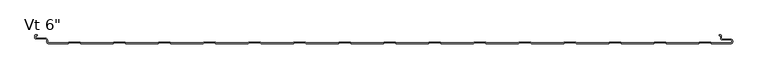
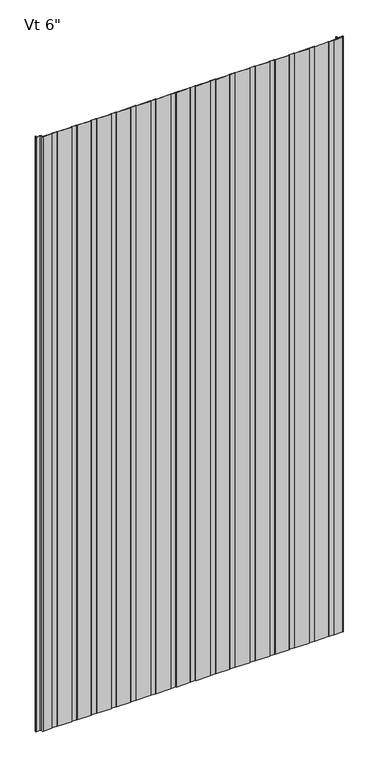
"""IFC4 building model written with IfcOpenShell, lengths in millimetres: plate geometry."""

from ifc_helpers import new_model, si_unit, frame, origin, place, context, project, spatial, polyline, circle_curve, source, transform, mapped, element, save
from ifc_brep_helpers import plane_surface, cylinder_surface, revolved_surface, advanced_brep


def plate_c57043c6(model_context):
    return source(origin(), model_context, "Body", "AdvancedBrep", [
        advanced_brep(
        [(390.6883592, -152.4, 2400.0), (445.2678137, -152.4, 2400.0), (446.3403385, -151.2088405, 2400.0), (465.2384546, -151.2088405, 2400.0), (466.3109794, -152.4, 2400.0), (520.890434, -152.4, 2400.0), (521.9629588, -151.2088405, 2400.0), (540.8610749, -151.2088405, 2400.0), (541.9335958, -152.3999956, 2400.0), (574.5475652, -152.3999956, 2400.0), (577.5248337, -149.4227271, 2400.0), (577.5248337, -148.3806285, 2400.0), (574.5475652, -145.40336, 2400.0), (560.3591801, -145.40336, 2400.0), (558.7713036, -143.8154834, 2400.0), (558.7713036, -139.4950653, 2400.0), (557.1304042, -137.9065979, 2400.0), (554.7857432, -137.9065979, 2400.0), (554.7857432, -138.9060718, 2400.0), (557.1628365, -138.9060718, 2400.0), (557.7713037, -139.4950653, 2400.0), (557.7713037, -143.8154834, 2400.0), (560.3591801, -146.40336, 2400.0), (574.5475652, -146.40336, 2400.0), (576.5248337, -148.3806285, 2400.0), (576.5248337, -149.4227271, 2400.0), (574.5475652, -151.3999956, 2400.0), (542.3760351, -151.3999956, 2400.0), (541.3035142, -150.2088405, 2400.0), (521.5205195, -150.2088405, 2400.0), (520.4479947, -151.4, 2400.0), (466.7534187, -151.4, 2400.0), (465.6808939, -150.2088405, 2400.0), (445.8978992, -150.2088405, 2400.0), (444.8253744, -151.4, 2400.0), (391.1307985, -151.4, 2400.0), (390.0582736, -150.2088405, 2400.0), (370.275279, -150.2088405, 2400.0), (369.2027541, -151.4, 2400.0), (315.5081782, -151.4, 2400.0), (314.4356534, -150.2088405, 2400.0), (294.6526587, -150.2088405, 2400.0), (293.5801339, -151.4, 2400.0), (239.885558, -151.4, 2400.0), (238.8130331, -150.2088405, 2400.0), (219.0300384, -150.2088405, 2400.0), (217.9575136, -151.4, 2400.0), (164.2629377, -151.4, 2400.0), (163.1904129, -150.2088405, 2400.0), (143.4074182, -150.2088405, 2400.0), (142.3348933, -151.4, 2400.0), (88.6403174, -151.4, 2400.0), (87.5677926, -150.2088405, 2400.0), (67.7847979, -150.2088405, 2400.0), (66.7122731, -151.4, 2400.0), (13.0176972, -151.4, 2400.0), (11.9451723, -150.2088405, 2400.0), (-7.8378224, -150.2088405, 2400.0), (-8.9103472, -151.4, 2400.0), (-62.6049231, -151.4, 2400.0), (-63.6774479, -150.2088405, 2400.0), (-83.4604426, -150.2088405, 2400.0), (-84.5329675, -151.4, 2400.0), (-138.2275434, -151.4, 2400.0), (-139.3000682, -150.2088405, 2400.0), (-159.0830629, -150.2088405, 2400.0), (-160.1555877, -151.4, 2400.0), (-213.8501636, -151.4, 2400.0), (-214.9226885, -150.2088405, 2400.0), (-234.7056831, -150.2088405, 2400.0), (-235.778208, -151.4, 2400.0), (-289.4727839, -151.4, 2400.0), (-290.5453087, -150.2088405, 2400.0), (-310.3283034, -150.2088405, 2400.0), (-311.4008282, -151.4, 2400.0), (-365.0954042, -151.4, 2400.0), (-366.167929, -150.2088405, 2400.0), (-385.9509237, -150.2088405, 2400.0), (-387.0234485, -151.4, 2400.0), (-440.7180244, -151.4, 2400.0), (-441.7905493, -150.2088405, 2400.0), (-461.5735439, -150.2088405, 2400.0), (-462.6460688, -151.4, 2400.0), (-516.3406447, -151.4, 2400.0), (-517.4131695, -150.2088405, 2400.0), (-537.1961642, -150.2088405, 2400.0), (-538.268689, -151.4, 2400.0), (-570.43528, -151.4, 2400.0), (-572.4125474, -149.4227096, 2400.0), (-572.4125474, -147.1308258, 2400.0), (-576.3898159, -143.1535573, 2400.0), (-591.9862419, -143.1535573, 2400.0), (-592.5741185, -142.5656807, 2400.0), (-592.5741185, -139.494132, 2400.0), (-591.9862419, -138.9062555, 2400.0), (-589.6312064, -138.9062555, 2400.0), (-589.6312064, -137.9062555, 2400.0), (-591.9862419, -137.9062555, 2400.0), (-593.5741185, -139.494132, 2400.0), (-593.5741185, -142.5656807, 2400.0), (-591.9862419, -144.1535573, 2400.0), (-576.3898159, -144.1535573, 2400.0), (-573.4125474, -147.1308258, 2400.0), (-573.4125474, -149.4227096, 2400.0), (-570.4352807, -152.3999782, 2400.0), (-537.8262497, -152.4, 2400.0), (-536.7537249, -151.2088405, 2400.0), (-517.8556088, -151.2088405, 2400.0), (-516.783084, -152.4, 2400.0), (-462.2036295, -152.4, 2400.0), (-461.1311046, -151.2088405, 2400.0), (-442.2329886, -151.2088405, 2400.0), (-441.1604637, -152.4, 2400.0), (-386.5810092, -152.4, 2400.0), (-385.5084844, -151.2088405, 2400.0), (-366.6103683, -151.2088405, 2400.0), (-365.5378435, -152.4, 2400.0), (-310.9583889, -152.4, 2400.0), (-309.8858641, -151.2088405, 2400.0), (-290.987748, -151.2088405, 2400.0), (-289.9152232, -152.4, 2400.0), (-235.3357687, -152.4, 2400.0), (-234.2632438, -151.2088405, 2400.0), (-215.3651278, -151.2088405, 2400.0), (-214.2926029, -152.4, 2400.0), (-159.7131484, -152.4, 2400.0), (-158.6406236, -151.2088405, 2400.0), (-139.7425075, -151.2088405, 2400.0), (-138.6699827, -152.4, 2400.0), (-84.0905281, -152.4, 2400.0), (-83.0180033, -151.2088405, 2400.0), (-64.1198873, -151.2088405, 2400.0), (-63.0473624, -152.4, 2400.0), (-8.4679079, -152.4, 2400.0), (-7.395383, -151.2088405, 2400.0), (11.502733, -151.2088405, 2400.0), (12.5752578, -152.4, 2400.0), (67.1547124, -152.4, 2400.0), (68.2272372, -151.2088405, 2400.0), (87.1253533, -151.2088405, 2400.0), (88.1978781, -152.4, 2400.0), (142.7773327, -152.4, 2400.0), (143.8498575, -151.2088405, 2400.0), (162.7479735, -151.2088405, 2400.0), (163.8204984, -152.4, 2400.0), (218.3999529, -152.4, 2400.0), (219.4724778, -151.2088405, 2400.0), (238.3705938, -151.2088405, 2400.0), (239.4431186, -152.4, 2400.0), (294.0225732, -152.4, 2400.0), (295.095098, -151.2088405, 2400.0), (313.9932141, -151.2088405, 2400.0), (315.0657389, -152.4, 2400.0), (369.6451934, -152.4, 2400.0), (370.7177183, -151.2088405, 2400.0), (389.6158343, -151.2088405, 2400.0), (390.6883592, -152.4, 0.0), (389.6158343, -151.2088405, 0.0), (370.7177183, -151.2088405, 0.0), (369.6451934, -152.4, 0.0), (315.0657389, -152.4, 0.0), (313.9932141, -151.2088405, 0.0), (295.095098, -151.2088405, 0.0), (294.0225732, -152.4, 0.0), (239.4431186, -152.4, 0.0), (238.3705938, -151.2088405, 0.0), (219.4724778, -151.2088405, 0.0), (218.3999529, -152.4, 0.0), (163.8204984, -152.4, 0.0), (162.7479735, -151.2088405, 0.0), (143.8498575, -151.2088405, 0.0), (142.7773327, -152.4, 0.0), (88.1978781, -152.4, 0.0), (87.1253533, -151.2088405, 0.0), (68.2272372, -151.2088405, 0.0), (67.1547124, -152.4, 0.0), (12.5752578, -152.4, 0.0), (11.502733, -151.2088405, 0.0), (-7.395383, -151.2088405, 0.0), (-8.4679079, -152.4, 0.0), (-63.0473624, -152.4, 0.0), (-64.1198873, -151.2088405, 0.0), (-83.0180033, -151.2088405, 0.0), (-84.0905281, -152.4, 0.0), (-138.6699827, -152.4, 0.0), (-139.7425075, -151.2088405, 0.0), (-158.6406236, -151.2088405, 0.0), (-159.7131484, -152.4, 0.0), (-214.2926029, -152.4, 0.0), (-215.3651278, -151.2088405, 0.0), (-234.2632438, -151.2088405, 0.0), (-235.3357687, -152.4, 0.0), (-289.9152232, -152.4, 0.0), (-290.987748, -151.2088405, 0.0), (-309.8858641, -151.2088405, 0.0), (-310.9583889, -152.4, 0.0), (-365.5378435, -152.4, 0.0), (-366.6103683, -151.2088405, 0.0), (-385.5084844, -151.2088405, 0.0), (-386.5810092, -152.4, 0.0), (-441.1604637, -152.4, 0.0), (-442.2329886, -151.2088405, 0.0), (-461.1311046, -151.2088405, 0.0), (-462.2036295, -152.4, 0.0), (-516.783084, -152.4, 0.0), (-517.8556088, -151.2088405, 0.0), (-536.7537249, -151.2088405, 0.0), (-537.8262497, -152.4, 0.0), (-570.4352807, -152.4, 0.0), (-573.4125474, -149.4227096, 0.0), (-573.4125474, -147.1308258, 0.0), (-576.3898159, -144.1535573, 0.0), (-591.9862419, -144.1535573, 0.0), (-593.5741185, -142.5656807, 0.0), (-593.5741185, -139.494132, 0.0), (-591.9862419, -137.9062555, 0.0), (-589.6312064, -137.9062555, 0.0), (-589.6312064, -138.9062555, 0.0), (-591.9862419, -138.9062555, 0.0), (-592.5741185, -139.494132, 0.0), (-592.5741185, -142.5656807, 0.0), (-591.9862419, -143.1535573, 0.0), (-576.3898159, -143.1535573, 0.0), (-572.4125474, -147.1308258, 0.0), (-572.4125474, -149.4227096, 0.0), (-570.43528, -151.3999782, 0.0), (-538.268689, -151.4, 0.0), (-537.1961642, -150.2088405, 0.0), (-517.4131695, -150.2088405, 0.0), (-516.3406447, -151.4, 0.0), (-462.6460688, -151.4, 0.0), (-461.5735439, -150.2088405, 0.0), (-441.7905493, -150.2088405, 0.0), (-440.7180244, -151.4, 0.0), (-387.0234485, -151.4, 0.0), (-385.9509237, -150.2088405, 0.0), (-366.167929, -150.2088405, 0.0), (-365.0954042, -151.4, 0.0), (-311.4008282, -151.4, 0.0), (-310.3283034, -150.2088405, 0.0), (-290.5453087, -150.2088405, 0.0), (-289.4727839, -151.4, 0.0), (-235.778208, -151.4, 0.0), (-234.7056831, -150.2088405, 0.0), (-214.9226885, -150.2088405, 0.0), (-213.8501636, -151.4, 0.0), (-160.1555877, -151.4, 0.0), (-159.0830629, -150.2088405, 0.0), (-139.3000682, -150.2088405, 0.0), (-138.2275434, -151.4, 0.0), (-84.5329675, -151.4, 0.0), (-83.4604426, -150.2088405, 0.0), (-63.6774479, -150.2088405, 0.0), (-62.6049231, -151.4, 0.0), (-8.9103472, -151.4, 0.0), (-7.8378224, -150.2088405, 0.0), (11.9451723, -150.2088405, 0.0), (13.0176972, -151.4, 0.0), (66.7122731, -151.4, 0.0), (67.7847979, -150.2088405, 0.0), (87.5677926, -150.2088405, 0.0), (88.6403174, -151.4, 0.0), (142.3348933, -151.4, 0.0), (143.4074182, -150.2088405, 0.0), (163.1904129, -150.2088405, 0.0), (164.2629377, -151.4, 0.0), (217.9575136, -151.4, 0.0), (219.0300384, -150.2088405, 0.0), (238.8130331, -150.2088405, 0.0), (239.885558, -151.4, 0.0), (293.5801339, -151.4, 0.0), (294.6526587, -150.2088405, 0.0), (314.4356534, -150.2088405, 0.0), (315.5081782, -151.4, 0.0), (369.2027541, -151.4, 0.0), (370.275279, -150.2088405, 0.0), (390.0582736, -150.2088405, 0.0), (391.1307985, -151.4, 0.0), (444.8253744, -151.4, 0.0), (445.8978992, -150.2088405, 0.0), (465.6808939, -150.2088405, 0.0), (466.7534187, -151.4, 0.0), (520.4479947, -151.4, 0.0), (521.5205195, -150.2088405, 0.0), (541.3035142, -150.2088405, 0.0), (542.3760351, -151.3999956, 0.0), (574.5475652, -151.3999956, 0.0), (576.5248337, -149.4227271, 0.0), (576.5248337, -148.3806285, 0.0), (574.5475652, -146.40336, 0.0), (560.3591801, -146.40336, 0.0), (557.7713036, -143.8154834, 0.0), (557.7713037, -139.4950653, 0.0), (557.1628365, -138.9060718, 0.0), (554.7857432, -138.9060718, 0.0), (554.7857432, -137.9065979, 0.0), (557.1304042, -137.9065979, 0.0), (558.7713037, -139.4950653, 0.0), (558.7713036, -143.8154834, 0.0), (560.3591801, -145.40336, 0.0), (574.5475652, -145.40336, 0.0), (577.5248337, -148.3806285, 0.0), (577.5248337, -149.4227271, 0.0), (574.5475652, -152.3999956, 0.0), (541.9335958, -152.3999956, 0.0), (540.8610749, -151.2088405, 0.0), (521.9629588, -151.2088405, 0.0), (520.890434, -152.4, 0.0), (466.3109794, -152.4, 0.0), (465.2384546, -151.2088405, 0.0), (446.3403385, -151.2088405, 0.0), (445.2678137, -152.4, 0.0)],
        [
            (0, 1),
            (1, 2),
            (2, 3),
            (3, 4),
            (4, 5),
            (5, 6),
            (6, 7),
            (7, 8),
            (8, 9),
            (9, 10, circle_curve(frame((574.5475652, -149.4227271, 2400.0), z_axis=(0.0, 0.0, 1.0), x_axis=(-1.0, 0.0, 0.0)), 2.9772685)),
            (10, 11),
            (11, 12, circle_curve(frame((574.5475652, -148.3806285, 2400.0), z_axis=(0.0, 0.0, 1.0), x_axis=(-1.0, 0.0, 0.0)), 2.9772685)),
            (12, 13),
            (13, 14, circle_curve(frame((560.3591801, -143.8154834, 2400.0), z_axis=(0.0, 0.0, -1.0), x_axis=(-1.0, 0.0, 0.0)), 1.5878765)),
            (14, 15),
            (15, 16, circle_curve(frame((557.1819985, -139.4950653, 2400.0), z_axis=(0.0, 0.0, 1.0), x_axis=(-1.0, 0.0, 0.0)), 1.5893052)),
            (16, 17),
            (17, 18),
            (18, 19),
            (19, 20, circle_curve(frame((557.1819985, -139.4950653, 2400.0), z_axis=(0.0, 0.0, -1.0), x_axis=(-1.0, 0.0, 0.0)), 0.5893052)),
            (20, 21),
            (21, 22, circle_curve(frame((560.3591801, -143.8154834, 2400.0), z_axis=(0.0, 0.0, 1.0), x_axis=(-1.0, 0.0, 0.0)), 2.5878765)),
            (22, 23),
            (23, 24, circle_curve(frame((574.5475652, -148.3806285, 2400.0), z_axis=(0.0, 0.0, -1.0), x_axis=(-1.0, 0.0, 0.0)), 1.9772685)),
            (24, 25),
            (25, 26, circle_curve(frame((574.5475652, -149.4227271, 2400.0), z_axis=(0.0, 0.0, -1.0), x_axis=(-1.0, 0.0, 0.0)), 1.9772685)),
            (26, 27),
            (27, 28),
            (28, 29),
            (29, 30),
            (30, 31),
            (31, 32),
            (32, 33),
            (33, 34),
            (34, 35),
            (35, 36),
            (36, 37),
            (37, 38),
            (38, 39),
            (39, 40),
            (40, 41),
            (41, 42),
            (42, 43),
            (43, 44),
            (44, 45),
            (45, 46),
            (46, 47),
            (47, 48),
            (48, 49),
            (49, 50),
            (50, 51),
            (51, 52),
            (52, 53),
            (53, 54),
            (54, 55),
            (55, 56),
            (56, 57),
            (57, 58),
            (58, 59),
            (59, 60),
            (60, 61),
            (61, 62),
            (62, 63),
            (63, 64),
            (64, 65),
            (65, 66),
            (66, 67),
            (67, 68),
            (68, 69),
            (69, 70),
            (70, 71),
            (71, 72),
            (72, 73),
            (73, 74),
            (74, 75),
            (75, 76),
            (76, 77),
            (77, 78),
            (78, 79),
            (79, 80),
            (80, 81),
            (81, 82),
            (82, 83),
            (83, 84),
            (84, 85),
            (85, 86),
            (86, 87),
            (87, 88, circle_curve(frame((-570.4352788, -149.4227096, 2400.0), z_axis=(0.0, 0.0, -1.0), x_axis=(-1.0, 0.0, 0.0)), 1.9772685)),
            (88, 89),
            (89, 90, circle_curve(frame((-576.3898159, -147.1308258, 2400.0), z_axis=(0.0, 0.0, 1.0), x_axis=(-1.0, 0.0, 0.0)), 3.9772685)),
            (90, 91),
            (91, 92, circle_curve(frame((-591.9862419, -142.5656807, 2400.0), z_axis=(0.0, 0.0, -1.0), x_axis=(-1.0, 0.0, 0.0)), 0.5878765)),
            (92, 93),
            (93, 94, circle_curve(frame((-591.9862419, -139.494132, 2400.0), z_axis=(0.0, 0.0, -1.0), x_axis=(-1.0, 0.0, 0.0)), 0.5878765)),
            (94, 95),
            (95, 96),
            (96, 97),
            (97, 98, circle_curve(frame((-591.9862419, -139.494132, 2400.0), z_axis=(0.0, 0.0, 1.0), x_axis=(-1.0, 0.0, 0.0)), 1.5878765)),
            (98, 99),
            (99, 100, circle_curve(frame((-591.9862419, -142.5656807, 2400.0), z_axis=(0.0, 0.0, 1.0), x_axis=(-1.0, 0.0, 0.0)), 1.5878765)),
            (100, 101),
            (101, 102, circle_curve(frame((-576.3898159, -147.1308258, 2400.0), z_axis=(0.0, 0.0, -1.0), x_axis=(-1.0, 0.0, 0.0)), 2.9772685)),
            (102, 103),
            (103, 104, circle_curve(frame((-570.4352789, -149.4227096, 2400.0), z_axis=(0.0, 0.0, 1.0), x_axis=(-1.0, 0.0, 0.0)), 2.9772685)),
            (104, 105),
            (105, 106),
            (106, 107),
            (107, 108),
            (108, 109),
            (109, 110),
            (110, 111),
            (111, 112),
            (112, 113),
            (113, 114),
            (114, 115),
            (115, 116),
            (116, 117),
            (117, 118),
            (118, 119),
            (119, 120),
            (120, 121),
            (121, 122),
            (122, 123),
            (123, 124),
            (124, 125),
            (125, 126),
            (126, 127),
            (127, 128),
            (128, 129),
            (129, 130),
            (130, 131),
            (131, 132),
            (132, 133),
            (133, 134),
            (134, 135),
            (135, 136),
            (136, 137),
            (137, 138),
            (138, 139),
            (139, 140),
            (140, 141),
            (141, 142),
            (142, 143),
            (143, 144),
            (144, 145),
            (145, 146),
            (146, 147),
            (147, 148),
            (148, 149),
            (149, 150),
            (150, 151),
            (151, 152),
            (152, 153),
            (153, 154),
            (154, 155),
            (155, 0),
            (156, 157),
            (157, 158),
            (158, 159),
            (159, 160),
            (160, 161),
            (161, 162),
            (162, 163),
            (163, 164),
            (164, 165),
            (165, 166),
            (166, 167),
            (167, 168),
            (168, 169),
            (169, 170),
            (170, 171),
            (171, 172),
            (172, 173),
            (173, 174),
            (174, 175),
            (175, 176),
            (176, 177),
            (177, 178),
            (178, 179),
            (179, 180),
            (180, 181),
            (181, 182),
            (182, 183),
            (183, 184),
            (184, 185),
            (185, 186),
            (186, 187),
            (187, 188),
            (188, 189),
            (189, 190),
            (190, 191),
            (191, 192),
            (192, 193),
            (193, 194),
            (194, 195),
            (195, 196),
            (196, 197),
            (197, 198),
            (198, 199),
            (199, 200),
            (200, 201),
            (201, 202),
            (202, 203),
            (203, 204),
            (204, 205),
            (205, 206),
            (206, 207),
            (207, 208),
            (208, 209, circle_curve(frame((-570.4352789, -149.4227096, 0.0), z_axis=(0.0, 0.0, -1.0), x_axis=(-1.0, 0.0, 0.0)), 2.9772685)),
            (209, 210),
            (210, 211, circle_curve(frame((-576.3898159, -147.1308258, 0.0), z_axis=(0.0, 0.0, 1.0), x_axis=(-1.0, 0.0, 0.0)), 2.9772685)),
            (211, 212),
            (212, 213, circle_curve(frame((-591.9862419, -142.5656807, 0.0), z_axis=(0.0, 0.0, -1.0), x_axis=(-1.0, 0.0, 0.0)), 1.5878765)),
            (213, 214),
            (214, 215, circle_curve(frame((-591.9862419, -139.494132, 0.0), z_axis=(0.0, 0.0, -1.0), x_axis=(-1.0, 0.0, 0.0)), 1.5878765)),
            (215, 216),
            (216, 217),
            (217, 218),
            (218, 219, circle_curve(frame((-591.9862419, -139.494132, 0.0), z_axis=(0.0, 0.0, 1.0), x_axis=(-1.0, 0.0, 0.0)), 0.5878765)),
            (219, 220),
            (220, 221, circle_curve(frame((-591.9862419, -142.5656807, 0.0), z_axis=(0.0, 0.0, 1.0), x_axis=(-1.0, 0.0, 0.0)), 0.5878765)),
            (221, 222),
            (222, 223, circle_curve(frame((-576.3898159, -147.1308258, 0.0), z_axis=(0.0, 0.0, -1.0), x_axis=(-1.0, 0.0, 0.0)), 3.9772685)),
            (223, 224),
            (224, 225, circle_curve(frame((-570.4352788, -149.4227096, 0.0), z_axis=(0.0, 0.0, 1.0), x_axis=(-1.0, 0.0, 0.0)), 1.9772685)),
            (225, 226),
            (226, 227),
            (227, 228),
            (228, 229),
            (229, 230),
            (230, 231),
            (231, 232),
            (232, 233),
            (233, 234),
            (234, 235),
            (235, 236),
            (236, 237),
            (237, 238),
            (238, 239),
            (239, 240),
            (240, 241),
            (241, 242),
            (242, 243),
            (243, 244),
            (244, 245),
            (245, 246),
            (246, 247),
            (247, 248),
            (248, 249),
            (249, 250),
            (250, 251),
            (251, 252),
            (252, 253),
            (253, 254),
            (254, 255),
            (255, 256),
            (256, 257),
            (257, 258),
            (258, 259),
            (259, 260),
            (260, 261),
            (261, 262),
            (262, 263),
            (263, 264),
            (264, 265),
            (265, 266),
            (266, 267),
            (267, 268),
            (268, 269),
            (269, 270),
            (270, 271),
            (271, 272),
            (272, 273),
            (273, 274),
            (274, 275),
            (275, 276),
            (276, 277),
            (277, 278),
            (278, 279),
            (279, 280),
            (280, 281),
            (281, 282),
            (282, 283),
            (283, 284),
            (284, 285),
            (285, 286),
            (286, 287, circle_curve(frame((574.5475652, -149.4227271, 0.0), z_axis=(0.0, 0.0, 1.0), x_axis=(-1.0, 0.0, 0.0)), 1.9772685)),
            (287, 288),
            (288, 289, circle_curve(frame((574.5475652, -148.3806285, 0.0), z_axis=(0.0, 0.0, 1.0), x_axis=(-1.0, 0.0, 0.0)), 1.9772685)),
            (289, 290),
            (290, 291, circle_curve(frame((560.3591801, -143.8154834, 0.0), z_axis=(0.0, 0.0, -1.0), x_axis=(-1.0, 0.0, 0.0)), 2.5878765)),
            (291, 292),
            (292, 293, circle_curve(frame((557.1819985, -139.4950653, 0.0), z_axis=(0.0, 0.0, 1.0), x_axis=(-1.0, 0.0, 0.0)), 0.5893052)),
            (293, 294),
            (294, 295),
            (295, 296),
            (296, 297, circle_curve(frame((557.1819985, -139.4950653, 0.0), z_axis=(0.0, 0.0, -1.0), x_axis=(-1.0, 0.0, 0.0)), 1.5893052)),
            (297, 298),
            (298, 299, circle_curve(frame((560.3591801, -143.8154834, 0.0), z_axis=(0.0, 0.0, 1.0), x_axis=(-1.0, 0.0, 0.0)), 1.5878765)),
            (299, 300),
            (300, 301, circle_curve(frame((574.5475652, -148.3806285, 0.0), z_axis=(0.0, 0.0, -1.0), x_axis=(-1.0, 0.0, 0.0)), 2.9772685)),
            (301, 302),
            (302, 303, circle_curve(frame((574.5475652, -149.4227271, 0.0), z_axis=(0.0, 0.0, -1.0), x_axis=(-1.0, 0.0, 0.0)), 2.9772685)),
            (303, 304),
            (304, 305),
            (305, 306),
            (306, 307),
            (307, 308),
            (308, 309),
            (309, 310),
            (310, 311),
            (311, 156),
            (0, 156),
            (311, 1),
            (34, 278),
            (277, 35),
            (64, 248),
            (247, 65),
            (124, 188),
            (187, 125),
            (66, 246),
            (245, 67),
            (123, 189),
            (244, 68),
            (121, 191),
            (190, 122),
            (69, 243),
            (242, 70),
            (120, 192),
            (241, 71),
            (119, 193),
            (240, 72),
            (137, 175),
            (174, 138),
            (53, 259),
            (258, 54),
            (173, 139),
            (52, 260),
            (136, 176),
            (257, 55),
            (135, 177),
            (256, 56),
            (133, 179),
            (178, 134),
            (57, 255),
            (254, 58),
            (132, 180),
            (253, 59),
            (131, 181),
            (252, 60),
            (129, 183),
            (182, 130),
            (61, 251),
            (250, 62),
            (128, 184),
            (249, 63),
            (127, 185),
            (186, 126),
            (24, 288),
            (287, 25),
            (10, 302),
            (301, 11),
            (286, 26),
            (103, 209),
            (208, 104),
            (207, 105),
            (91, 221),
            (220, 92),
            (4, 308),
            (307, 5),
            (30, 282),
            (281, 31),
            (7, 305),
            (304, 8),
            (27, 285),
            (284, 28),
            (306, 6),
            (29, 283),
            (23, 289),
            (22, 290),
            (21, 291),
            (20, 292),
            (19, 293),
            (18, 294),
            (17, 295),
            (16, 296),
            (15, 297),
            (14, 298),
            (13, 299),
            (12, 300),
            (9, 303),
            (101, 211),
            (210, 102),
            (99, 213),
            (212, 100),
            (97, 215),
            (214, 98),
            (95, 217),
            (216, 96),
            (93, 219),
            (218, 94),
            (90, 222),
            (88, 224),
            (223, 89),
            (86, 226),
            (225, 87),
            (106, 206),
            (205, 107),
            (85, 227),
            (84, 228),
            (204, 108),
            (203, 109),
            (82, 230),
            (229, 83),
            (110, 202),
            (201, 111),
            (81, 231),
            (80, 232),
            (200, 112),
            (199, 113),
            (78, 234),
            (233, 79),
            (114, 198),
            (197, 115),
            (77, 235),
            (76, 236),
            (196, 116),
            (195, 117),
            (74, 238),
            (237, 75),
            (118, 194),
            (73, 239),
            (172, 140),
            (171, 141),
            (50, 262),
            (261, 51),
            (142, 170),
            (169, 143),
            (49, 263),
            (48, 264),
            (168, 144),
            (167, 145),
            (46, 266),
            (265, 47),
            (146, 166),
            (165, 147),
            (45, 267),
            (44, 268),
            (164, 148),
            (163, 149),
            (42, 270),
            (269, 43),
            (150, 162),
            (161, 151),
            (41, 271),
            (40, 272),
            (160, 152),
            (159, 153),
            (38, 274),
            (273, 39),
            (154, 158),
            (157, 155),
            (37, 275),
            (36, 276),
            (2, 310),
            (309, 3),
            (32, 280),
            (279, 33),
        ],
        [
            plane_surface(frame((0.0, -152.4, 2400.0), z_axis=(0.0, 0.0, 1.0), x_axis=(0.0, -1.0, 0.0))),
            plane_surface(frame((0.0, -152.4, 0.0), z_axis=(0.0, 0.0, -1.0), x_axis=(0.0, -1.0, 0.0))),
            plane_surface(frame((445.2678137, -152.4, 2400.0), z_axis=(0.0, -1.0, 0.0), x_axis=(0.0, 0.0, -1.0))),
            plane_surface(frame((391.1307985, -151.4, 2400.0), z_axis=(0.0, 1.0, 0.0), x_axis=(0.0, 0.0, -1.0))),
            plane_surface(frame((-159.0830629, -150.2088405, 2400.0), z_axis=(0.0, 1.0, 0.0), x_axis=(0.0, 0.0, -1.0))),
            plane_surface(frame((-159.7131484, -152.4, 2400.0), z_axis=(0.0, -1.0, 0.0), x_axis=(0.0, 0.0, -1.0))),
            plane_surface(frame((-213.8501636, -151.4, 2400.0), z_axis=(0.0, 1.0, 0.0), x_axis=(0.0, 0.0, -1.0))),
            plane_surface(frame((-214.2926029, -152.4, 2400.0), z_axis=(-0.7431448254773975, -0.6691306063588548, 0.0), x_axis=(0.0, 0.0, -1.0))),
            plane_surface(frame((-214.9226885, -150.2088405, 2400.0), z_axis=(0.7431448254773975, 0.6691306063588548, 0.0), x_axis=(0.0, 0.0, -1.0))),
            plane_surface(frame((-234.2632438, -151.2088405, 2400.0), z_axis=(0.7431448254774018, -0.66913060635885, 0.0), x_axis=(0.0, 0.0, -1.0))),
            plane_surface(frame((-235.778208, -151.4, 2400.0), z_axis=(-0.7431448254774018, 0.66913060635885, 0.0), x_axis=(0.0, 0.0, -1.0))),
            plane_surface(frame((-215.3651278, -151.2088405, 2400.0), z_axis=(0.0, -1.0, 0.0), x_axis=(0.0, 0.0, -1.0))),
            plane_surface(frame((-234.7056831, -150.2088405, 2400.0), z_axis=(0.0, 1.0, 0.0), x_axis=(0.0, 0.0, -1.0))),
            plane_surface(frame((-235.3357687, -152.4, 2400.0), z_axis=(0.0, -1.0, 0.0), x_axis=(0.0, 0.0, -1.0))),
            plane_surface(frame((-289.4727839, -151.4, 2400.0), z_axis=(0.0, 1.0, 0.0), x_axis=(0.0, 0.0, -1.0))),
            plane_surface(frame((-289.9152232, -152.4, 2400.0), z_axis=(-0.7431448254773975, -0.6691306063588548, 0.0), x_axis=(0.0, 0.0, -1.0))),
            plane_surface(frame((-290.5453087, -150.2088405, 2400.0), z_axis=(0.7431448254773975, 0.6691306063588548, 0.0), x_axis=(0.0, 0.0, -1.0))),
            plane_surface(frame((68.2272372, -151.2088405, 2400.0), z_axis=(0.7431448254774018, -0.66913060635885, 0.0), x_axis=(0.0, 0.0, -1.0))),
            plane_surface(frame((66.7122731, -151.4, 2400.0), z_axis=(-0.7431448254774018, 0.66913060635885, 0.0), x_axis=(0.0, 0.0, -1.0))),
            plane_surface(frame((87.1253533, -151.2088405, 2400.0), z_axis=(0.0, -1.0, 0.0), x_axis=(0.0, 0.0, -1.0))),
            plane_surface(frame((67.7847979, -150.2088405, 2400.0), z_axis=(0.0, 1.0, 0.0), x_axis=(0.0, 0.0, -1.0))),
            plane_surface(frame((67.1547124, -152.4, 2400.0), z_axis=(0.0, -1.0, 0.0), x_axis=(0.0, 0.0, -1.0))),
            plane_surface(frame((13.0176972, -151.4, 2400.0), z_axis=(0.0, 1.0, 0.0), x_axis=(0.0, 0.0, -1.0))),
            plane_surface(frame((12.5752578, -152.4, 2400.0), z_axis=(-0.7431448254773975, -0.6691306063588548, 0.0), x_axis=(0.0, 0.0, -1.0))),
            plane_surface(frame((11.9451723, -150.2088405, 2400.0), z_axis=(0.7431448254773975, 0.6691306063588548, 0.0), x_axis=(0.0, 0.0, -1.0))),
            plane_surface(frame((-7.395383, -151.2088405, 2400.0), z_axis=(0.7431448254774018, -0.66913060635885, 0.0), x_axis=(0.0, 0.0, -1.0))),
            plane_surface(frame((-8.9103472, -151.4, 2400.0), z_axis=(-0.7431448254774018, 0.66913060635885, 0.0), x_axis=(0.0, 0.0, -1.0))),
            plane_surface(frame((11.502733, -151.2088405, 2400.0), z_axis=(0.0, -1.0, 0.0), x_axis=(0.0, 0.0, -1.0))),
            plane_surface(frame((-7.8378224, -150.2088405, 2400.0), z_axis=(0.0, 1.0, 0.0), x_axis=(0.0, 0.0, -1.0))),
            plane_surface(frame((-8.4679079, -152.4, 2400.0), z_axis=(0.0, -1.0, 0.0), x_axis=(0.0, 0.0, -1.0))),
            plane_surface(frame((-62.6049231, -151.4, 2400.0), z_axis=(0.0, 1.0, 0.0), x_axis=(0.0, 0.0, -1.0))),
            plane_surface(frame((-63.0473624, -152.4, 2400.0), z_axis=(-0.7431448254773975, -0.6691306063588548, 0.0), x_axis=(0.0, 0.0, -1.0))),
            plane_surface(frame((-63.6774479, -150.2088405, 2400.0), z_axis=(0.7431448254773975, 0.6691306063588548, 0.0), x_axis=(0.0, 0.0, -1.0))),
            plane_surface(frame((-83.0180033, -151.2088405, 2400.0), z_axis=(0.7431448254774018, -0.66913060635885, 0.0), x_axis=(0.0, 0.0, -1.0))),
            plane_surface(frame((-84.5329675, -151.4, 2400.0), z_axis=(-0.7431448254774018, 0.66913060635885, 0.0), x_axis=(0.0, 0.0, -1.0))),
            plane_surface(frame((-64.1198873, -151.2088405, 2400.0), z_axis=(0.0, -1.0, 0.0), x_axis=(0.0, 0.0, -1.0))),
            plane_surface(frame((-83.4604426, -150.2088405, 2400.0), z_axis=(0.0, 1.0, 0.0), x_axis=(0.0, 0.0, -1.0))),
            plane_surface(frame((-84.0905281, -152.4, 2400.0), z_axis=(0.0, -1.0, 0.0), x_axis=(0.0, 0.0, -1.0))),
            plane_surface(frame((-138.2275434, -151.4, 2400.0), z_axis=(0.0, 1.0, 0.0), x_axis=(0.0, 0.0, -1.0))),
            plane_surface(frame((-138.6699827, -152.4, 2400.0), z_axis=(-0.7431448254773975, -0.6691306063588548, 0.0), x_axis=(0.0, 0.0, -1.0))),
            plane_surface(frame((-139.3000682, -150.2088405, 2400.0), z_axis=(0.7431448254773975, 0.6691306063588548, 0.0), x_axis=(0.0, 0.0, -1.0))),
            plane_surface(frame((-158.6406236, -151.2088405, 2400.0), z_axis=(0.7431448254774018, -0.66913060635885, 0.0), x_axis=(0.0, 0.0, -1.0))),
            plane_surface(frame((-160.1555877, -151.4, 2400.0), z_axis=(-0.7431448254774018, 0.66913060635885, 0.0), x_axis=(0.0, 0.0, -1.0))),
            plane_surface(frame((-139.7425075, -151.2088405, 2400.0), z_axis=(0.0, -1.0, 0.0), x_axis=(0.0, 0.0, -1.0))),
            plane_surface(frame((576.5248337, -149.4227271, 2400.0), z_axis=(-1.0, 0.0, 0.0), x_axis=(0.0, 0.0, -1.0))),
            plane_surface(frame((577.5248337, -148.3806285, 2400.0), z_axis=(1.0, 0.0, 0.0), x_axis=(0.0, 0.0, -1.0))),
            revolved_surface(polyline([(572.5702967, -149.4227271, 0.0), (572.5702967, -149.4227271, 2400.0)]), (574.5475652, -149.4227271, 2400.0), (0.0, 0.0, -1.0)),
            cylinder_surface(frame((-570.4352789, -149.4227096, 2400.0), z_axis=(0.0, 0.0, 1.0), x_axis=(-1.0, 0.0, 0.0)), 2.9772685),
            plane_surface(frame((-537.8262497, -152.4, 2400.0), z_axis=(0.0, -1.0, 0.0), x_axis=(0.0, 0.0, -1.0))),
            revolved_surface(polyline([(-592.5741184, -142.5656807, 0.0), (-592.5741184, -142.5656807, 2400.0)]), (-591.9862419, -142.5656807, 2400.0), (0.0, 0.0, -1.0)),
            plane_surface(frame((520.890434, -152.4, 2400.0), z_axis=(0.0, -1.0, 0.0), x_axis=(0.0, 0.0, -1.0))),
            plane_surface(frame((466.7534187, -151.4, 2400.0), z_axis=(0.0, 1.0, 0.0), x_axis=(0.0, 0.0, -1.0))),
            plane_surface(frame((541.9335958, -152.3999956, 2400.0), z_axis=(-0.7431448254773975, -0.6691306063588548, 0.0), x_axis=(0.0, 0.0, -1.0))),
            plane_surface(frame((541.3035142, -150.2088405, 2400.0), z_axis=(0.7431448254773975, 0.6691306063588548, 0.0), x_axis=(0.0, 0.0, -1.0))),
            plane_surface(frame((521.9629588, -151.2088405, 2400.0), z_axis=(0.7431448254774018, -0.66913060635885, 0.0), x_axis=(0.0, 0.0, -1.0))),
            plane_surface(frame((520.4479947, -151.4, 2400.0), z_axis=(-0.7431448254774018, 0.66913060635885, 0.0), x_axis=(0.0, 0.0, -1.0))),
            plane_surface(frame((540.8610749, -151.2088405, 2400.0), z_axis=(0.0, -1.0, 0.0), x_axis=(0.0, 0.0, -1.0))),
            plane_surface(frame((521.5205195, -150.2088405, 2400.0), z_axis=(0.0, 1.0, 0.0), x_axis=(0.0, 0.0, -1.0))),
            plane_surface(frame((542.3760351, -151.3999956, 2400.0), z_axis=(0.0, 1.0, 0.0), x_axis=(0.0, 0.0, -1.0))),
            revolved_surface(polyline([(572.5702967, -148.3806285, 0.0), (572.5702967, -148.3806285, 2400.0)]), (574.5475652, -148.3806285, 2400.0), (0.0, 0.0, -1.0)),
            plane_surface(frame((574.5475652, -146.40336, 2400.0), z_axis=(0.0, -1.0, 0.0), x_axis=(0.0, 0.0, -1.0))),
            cylinder_surface(frame((560.3591801, -143.8154834, 2400.0), z_axis=(0.0, 0.0, 1.0), x_axis=(-1.0, 0.0, 0.0)), 2.5878765),
            plane_surface(frame((557.7713037, -143.8154834, 2400.0), z_axis=(-1.0, 0.0, 0.0), x_axis=(0.0, 0.0, -1.0))),
            revolved_surface(polyline([(556.5926933, -139.4950653, 0.0), (556.5926933, -139.4950653, 2400.0)]), (557.1819985, -139.4950653, 2400.0), (0.0, 0.0, -1.0)),
            plane_surface(frame((557.1628365, -138.9060718, 2400.0), z_axis=(0.0, -1.0, 0.0), x_axis=(0.0, 0.0, -1.0))),
            plane_surface(frame((554.7857432, -138.9060718, 2400.0), z_axis=(-1.0, 0.0, 0.0), x_axis=(0.0, 0.0, -1.0))),
            plane_surface(frame((554.7857432, -137.9065979, 2400.0), z_axis=(0.0, 1.0, 0.0), x_axis=(0.0, 0.0, -1.0))),
            cylinder_surface(frame((557.1819985, -139.4950653, 2400.0), z_axis=(0.0, 0.0, 1.0), x_axis=(-1.0, 0.0, 0.0)), 1.5893052),
            plane_surface(frame((558.7713036, -139.4950653, 2400.0), z_axis=(1.0, 0.0, 0.0), x_axis=(0.0, 0.0, -1.0))),
            revolved_surface(polyline([(558.7713036, -143.8154834, 0.0), (558.7713036, -143.8154834, 2400.0)]), (560.3591801, -143.8154834, 2400.0), (0.0, 0.0, -1.0)),
            plane_surface(frame((560.3591801, -145.40336, 2400.0), z_axis=(0.0, 1.0, 0.0), x_axis=(0.0, 0.0, -1.0))),
            cylinder_surface(frame((574.5475652, -148.3806285, 2400.0), z_axis=(0.0, 0.0, 1.0), x_axis=(-1.0, 0.0, 0.0)), 2.9772685),
            cylinder_surface(frame((574.5475652, -149.4227271, 2400.0), z_axis=(0.0, 0.0, 1.0), x_axis=(-1.0, 0.0, 0.0)), 2.9772685),
            plane_surface(frame((574.5475652, -152.3999956, 2400.0), z_axis=(0.0, -1.0, 0.0), x_axis=(0.0, 0.0, -1.0))),
            revolved_surface(polyline([(-579.3670844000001, -147.1308258, 0.0), (-579.3670844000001, -147.1308258, 2400.0)]), (-576.3898159, -147.1308258, 2400.0), (0.0, 0.0, -1.0)),
            cylinder_surface(frame((-591.9862419, -142.5656807, 2400.0), z_axis=(0.0, 0.0, 1.0), x_axis=(-1.0, 0.0, 0.0)), 1.5878765),
            plane_surface(frame((-576.3898159, -144.1535573, 2400.0), z_axis=(0.0, -1.0, 0.0), x_axis=(0.0, 0.0, -1.0))),
            plane_surface(frame((-573.4125474, -149.4227096, 2400.0), z_axis=(-1.0, 0.0, 0.0), x_axis=(0.0, 0.0, -1.0))),
            cylinder_surface(frame((-591.9862419, -139.494132, 2400.0), z_axis=(0.0, 0.0, 1.0), x_axis=(-1.0, 0.0, 0.0)), 1.5878765),
            plane_surface(frame((-589.6312064, -137.9062555, 2400.0), z_axis=(1.0, 0.0, 0.0), x_axis=(0.0, 0.0, -1.0))),
            plane_surface(frame((-591.9862419, -137.9062555, 2400.0), z_axis=(0.0, 1.0, 0.0), x_axis=(0.0, 0.0, -1.0))),
            plane_surface(frame((-593.5741185, -142.5656807, 2400.0), z_axis=(-1.0, 0.0, 0.0), x_axis=(0.0, 0.0, -1.0))),
            revolved_surface(polyline([(-592.5741184, -139.494132, 0.0), (-592.5741184, -139.494132, 2400.0)]), (-591.9862419, -139.494132, 2400.0), (0.0, 0.0, -1.0)),
            plane_surface(frame((-591.9862419, -143.1535573, 2400.0), z_axis=(0.0, 1.0, 0.0), x_axis=(0.0, 0.0, -1.0))),
            plane_surface(frame((-592.5741185, -139.494132, 2400.0), z_axis=(1.0, 0.0, 0.0), x_axis=(0.0, 0.0, -1.0))),
            plane_surface(frame((-589.6312064, -138.9062555, 2400.0), z_axis=(0.0, -1.0, 0.0), x_axis=(0.0, 0.0, -1.0))),
            plane_surface(frame((-572.4125474, -147.1308258, 2400.0), z_axis=(1.0, 0.0, 0.0), x_axis=(0.0, 0.0, -1.0))),
            plane_surface(frame((-570.43528, -151.4, 2400.0), z_axis=(0.0, 1.0, 0.0), x_axis=(0.0, 0.0, -1.0))),
            revolved_surface(polyline([(-572.4125473, -149.4227096, 0.0), (-572.4125473, -149.4227096, 2400.0)]), (-570.4352788, -149.4227096, 2400.0), (0.0, 0.0, -1.0)),
            cylinder_surface(frame((-576.3898159, -147.1308258, 2400.0), z_axis=(0.0, 0.0, 1.0), x_axis=(-1.0, 0.0, 0.0)), 3.9772685),
            plane_surface(frame((-517.8556088, -151.2088405, 2400.0), z_axis=(0.0, -1.0, 0.0), x_axis=(0.0, 0.0, -1.0))),
            plane_surface(frame((-536.7537249, -151.2088405, 2400.0), z_axis=(0.7431448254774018, -0.66913060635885, 0.0), x_axis=(0.0, 0.0, -1.0))),
            plane_surface(frame((-538.268689, -151.4, 2400.0), z_axis=(-0.7431448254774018, 0.66913060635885, 0.0), x_axis=(0.0, 0.0, -1.0))),
            plane_surface(frame((-537.1961642, -150.2088405, 2400.0), z_axis=(0.0, 1.0, 0.0), x_axis=(0.0, 0.0, -1.0))),
            plane_surface(frame((-516.783084, -152.4, 2400.0), z_axis=(-0.7431448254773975, -0.6691306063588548, 0.0), x_axis=(0.0, 0.0, -1.0))),
            plane_surface(frame((-462.2036295, -152.4, 2400.0), z_axis=(0.0, -1.0, 0.0), x_axis=(0.0, 0.0, -1.0))),
            plane_surface(frame((-516.3406447, -151.4, 2400.0), z_axis=(0.0, 1.0, 0.0), x_axis=(0.0, 0.0, -1.0))),
            plane_surface(frame((-517.4131695, -150.2088405, 2400.0), z_axis=(0.7431448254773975, 0.6691306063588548, 0.0), x_axis=(0.0, 0.0, -1.0))),
            plane_surface(frame((-442.2329886, -151.2088405, 2400.0), z_axis=(0.0, -1.0, 0.0), x_axis=(0.0, 0.0, -1.0))),
            plane_surface(frame((-461.1311046, -151.2088405, 2400.0), z_axis=(0.7431448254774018, -0.66913060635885, 0.0), x_axis=(0.0, 0.0, -1.0))),
            plane_surface(frame((-462.6460688, -151.4, 2400.0), z_axis=(-0.7431448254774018, 0.66913060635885, 0.0), x_axis=(0.0, 0.0, -1.0))),
            plane_surface(frame((-461.5735439, -150.2088405, 2400.0), z_axis=(0.0, 1.0, 0.0), x_axis=(0.0, 0.0, -1.0))),
            plane_surface(frame((-441.1604637, -152.4, 2400.0), z_axis=(-0.7431448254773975, -0.6691306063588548, 0.0), x_axis=(0.0, 0.0, -1.0))),
            plane_surface(frame((-386.5810092, -152.4, 2400.0), z_axis=(0.0, -1.0, 0.0), x_axis=(0.0, 0.0, -1.0))),
            plane_surface(frame((-440.7180244, -151.4, 2400.0), z_axis=(0.0, 1.0, 0.0), x_axis=(0.0, 0.0, -1.0))),
            plane_surface(frame((-441.7905493, -150.2088405, 2400.0), z_axis=(0.7431448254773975, 0.6691306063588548, 0.0), x_axis=(0.0, 0.0, -1.0))),
            plane_surface(frame((-366.6103683, -151.2088405, 2400.0), z_axis=(0.0, -1.0, 0.0), x_axis=(0.0, 0.0, -1.0))),
            plane_surface(frame((-385.5084844, -151.2088405, 2400.0), z_axis=(0.7431448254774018, -0.66913060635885, 0.0), x_axis=(0.0, 0.0, -1.0))),
            plane_surface(frame((-387.0234485, -151.4, 2400.0), z_axis=(-0.7431448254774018, 0.66913060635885, 0.0), x_axis=(0.0, 0.0, -1.0))),
            plane_surface(frame((-385.9509237, -150.2088405, 2400.0), z_axis=(0.0, 1.0, 0.0), x_axis=(0.0, 0.0, -1.0))),
            plane_surface(frame((-365.5378435, -152.4, 2400.0), z_axis=(-0.7431448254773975, -0.6691306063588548, 0.0), x_axis=(0.0, 0.0, -1.0))),
            plane_surface(frame((-310.9583889, -152.4, 2400.0), z_axis=(0.0, -1.0, 0.0), x_axis=(0.0, 0.0, -1.0))),
            plane_surface(frame((-365.0954042, -151.4, 2400.0), z_axis=(0.0, 1.0, 0.0), x_axis=(0.0, 0.0, -1.0))),
            plane_surface(frame((-366.167929, -150.2088405, 2400.0), z_axis=(0.7431448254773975, 0.6691306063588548, 0.0), x_axis=(0.0, 0.0, -1.0))),
            plane_surface(frame((-290.987748, -151.2088405, 2400.0), z_axis=(0.0, -1.0, 0.0), x_axis=(0.0, 0.0, -1.0))),
            plane_surface(frame((-309.8858641, -151.2088405, 2400.0), z_axis=(0.7431448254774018, -0.66913060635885, 0.0), x_axis=(0.0, 0.0, -1.0))),
            plane_surface(frame((-311.4008282, -151.4, 2400.0), z_axis=(-0.7431448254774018, 0.66913060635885, 0.0), x_axis=(0.0, 0.0, -1.0))),
            plane_surface(frame((-310.3283034, -150.2088405, 2400.0), z_axis=(0.0, 1.0, 0.0), x_axis=(0.0, 0.0, -1.0))),
            plane_surface(frame((88.1978781, -152.4, 2400.0), z_axis=(-0.7431448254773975, -0.6691306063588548, 0.0), x_axis=(0.0, 0.0, -1.0))),
            plane_surface(frame((142.7773327, -152.4, 2400.0), z_axis=(0.0, -1.0, 0.0), x_axis=(0.0, 0.0, -1.0))),
            plane_surface(frame((88.6403174, -151.4, 2400.0), z_axis=(0.0, 1.0, 0.0), x_axis=(0.0, 0.0, -1.0))),
            plane_surface(frame((87.5677926, -150.2088405, 2400.0), z_axis=(0.7431448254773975, 0.6691306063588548, 0.0), x_axis=(0.0, 0.0, -1.0))),
            plane_surface(frame((162.7479735, -151.2088405, 2400.0), z_axis=(0.0, -1.0, 0.0), x_axis=(0.0, 0.0, -1.0))),
            plane_surface(frame((143.8498575, -151.2088405, 2400.0), z_axis=(0.7431448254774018, -0.66913060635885, 0.0), x_axis=(0.0, 0.0, -1.0))),
            plane_surface(frame((142.3348933, -151.4, 2400.0), z_axis=(-0.7431448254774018, 0.66913060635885, 0.0), x_axis=(0.0, 0.0, -1.0))),
            plane_surface(frame((143.4074182, -150.2088405, 2400.0), z_axis=(0.0, 1.0, 0.0), x_axis=(0.0, 0.0, -1.0))),
            plane_surface(frame((163.8204984, -152.4, 2400.0), z_axis=(-0.7431448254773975, -0.6691306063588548, 0.0), x_axis=(0.0, 0.0, -1.0))),
            plane_surface(frame((218.3999529, -152.4, 2400.0), z_axis=(0.0, -1.0, 0.0), x_axis=(0.0, 0.0, -1.0))),
            plane_surface(frame((164.2629377, -151.4, 2400.0), z_axis=(0.0, 1.0, 0.0), x_axis=(0.0, 0.0, -1.0))),
            plane_surface(frame((163.1904129, -150.2088405, 2400.0), z_axis=(0.7431448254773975, 0.6691306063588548, 0.0), x_axis=(0.0, 0.0, -1.0))),
            plane_surface(frame((238.3705938, -151.2088405, 2400.0), z_axis=(0.0, -1.0, 0.0), x_axis=(0.0, 0.0, -1.0))),
            plane_surface(frame((219.4724778, -151.2088405, 2400.0), z_axis=(0.7431448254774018, -0.66913060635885, 0.0), x_axis=(0.0, 0.0, -1.0))),
            plane_surface(frame((217.9575136, -151.4, 2400.0), z_axis=(-0.7431448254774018, 0.66913060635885, 0.0), x_axis=(0.0, 0.0, -1.0))),
            plane_surface(frame((219.0300384, -150.2088405, 2400.0), z_axis=(0.0, 1.0, 0.0), x_axis=(0.0, 0.0, -1.0))),
            plane_surface(frame((239.4431186, -152.4, 2400.0), z_axis=(-0.7431448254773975, -0.6691306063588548, 0.0), x_axis=(0.0, 0.0, -1.0))),
            plane_surface(frame((294.0225732, -152.4, 2400.0), z_axis=(0.0, -1.0, 0.0), x_axis=(0.0, 0.0, -1.0))),
            plane_surface(frame((239.885558, -151.4, 2400.0), z_axis=(0.0, 1.0, 0.0), x_axis=(0.0, 0.0, -1.0))),
            plane_surface(frame((238.8130331, -150.2088405, 2400.0), z_axis=(0.7431448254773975, 0.6691306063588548, 0.0), x_axis=(0.0, 0.0, -1.0))),
            plane_surface(frame((313.9932141, -151.2088405, 2400.0), z_axis=(0.0, -1.0, 0.0), x_axis=(0.0, 0.0, -1.0))),
            plane_surface(frame((295.095098, -151.2088405, 2400.0), z_axis=(0.7431448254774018, -0.66913060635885, 0.0), x_axis=(0.0, 0.0, -1.0))),
            plane_surface(frame((293.5801339, -151.4, 2400.0), z_axis=(-0.7431448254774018, 0.66913060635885, 0.0), x_axis=(0.0, 0.0, -1.0))),
            plane_surface(frame((294.6526587, -150.2088405, 2400.0), z_axis=(0.0, 1.0, 0.0), x_axis=(0.0, 0.0, -1.0))),
            plane_surface(frame((315.0657389, -152.4, 2400.0), z_axis=(-0.7431448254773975, -0.6691306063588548, 0.0), x_axis=(0.0, 0.0, -1.0))),
            plane_surface(frame((369.6451934, -152.4, 2400.0), z_axis=(0.0, -1.0, 0.0), x_axis=(0.0, 0.0, -1.0))),
            plane_surface(frame((315.5081782, -151.4, 2400.0), z_axis=(0.0, 1.0, 0.0), x_axis=(0.0, 0.0, -1.0))),
            plane_surface(frame((314.4356534, -150.2088405, 2400.0), z_axis=(0.7431448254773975, 0.6691306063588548, 0.0), x_axis=(0.0, 0.0, -1.0))),
            plane_surface(frame((389.6158343, -151.2088405, 2400.0), z_axis=(0.0, -1.0, 0.0), x_axis=(0.0, 0.0, -1.0))),
            plane_surface(frame((370.7177183, -151.2088405, 2400.0), z_axis=(0.7431448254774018, -0.66913060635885, 0.0), x_axis=(0.0, 0.0, -1.0))),
            plane_surface(frame((369.2027541, -151.4, 2400.0), z_axis=(-0.7431448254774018, 0.66913060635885, 0.0), x_axis=(0.0, 0.0, -1.0))),
            plane_surface(frame((370.275279, -150.2088405, 2400.0), z_axis=(0.0, 1.0, 0.0), x_axis=(0.0, 0.0, -1.0))),
            plane_surface(frame((390.6883592, -152.4, 2400.0), z_axis=(-0.7431448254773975, -0.6691306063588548, 0.0), x_axis=(0.0, 0.0, -1.0))),
            plane_surface(frame((465.2384546, -151.2088405, 2400.0), z_axis=(0.0, -1.0, 0.0), x_axis=(0.0, 0.0, -1.0))),
            plane_surface(frame((445.8978992, -150.2088405, 2400.0), z_axis=(0.0, 1.0, 0.0), x_axis=(0.0, 0.0, -1.0))),
            plane_surface(frame((390.0582736, -150.2088405, 2400.0), z_axis=(0.7431448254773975, 0.6691306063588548, 0.0), x_axis=(0.0, 0.0, -1.0))),
            plane_surface(frame((446.3403385, -151.2088405, 2400.0), z_axis=(0.7431448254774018, -0.66913060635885, 0.0), x_axis=(0.0, 0.0, -1.0))),
            plane_surface(frame((466.3109794, -152.4, 2400.0), z_axis=(-0.7431448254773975, -0.6691306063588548, 0.0), x_axis=(0.0, 0.0, -1.0))),
            plane_surface(frame((465.6808939, -150.2088405, 2400.0), z_axis=(0.7431448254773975, 0.6691306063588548, 0.0), x_axis=(0.0, 0.0, -1.0))),
            plane_surface(frame((444.8253744, -151.4, 2400.0), z_axis=(-0.7431448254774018, 0.66913060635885, 0.0), x_axis=(0.0, 0.0, -1.0))),
        ],
        [
            (0, [[1, 2, 3, 4, 5, 6, 7, 8, 9, 10, 11, 12, 13, 14, 15, 16, 17, 18, 19, 20, 21, 22, 23, 24, 25, 26, 27, 28, 29, 30, 31, 32, 33, 34, 35, 36, 37, 38, 39, 40, 41, 42, 43, 44, 45, 46, 47, 48, 49, 50, 51, 52, 53, 54, 55, 56, 57, 58, 59, 60, 61, 62, 63, 64, 65, 66, 67, 68, 69, 70, 71, 72, 73, 74, 75, 76, 77, 78, 79, 80, 81, 82, 83, 84, 85, 86, 87, 88, 89, 90, 91, 92, 93, 94, 95, 96, 97, 98, 99, 100, 101, 102, 103, 104, 105, 106, 107, 108, 109, 110, 111, 112, 113, 114, 115, 116, 117, 118, 119, 120, 121, 122, 123, 124, 125, 126, 127, 128, 129, 130, 131, 132, 133, 134, 135, 136, 137, 138, 139, 140, 141, 142, 143, 144, 145, 146, 147, 148, 149, 150, 151, 152, 153, 154, 155, 156]]),
            (1, [[157, 158, 159, 160, 161, 162, 163, 164, 165, 166, 167, 168, 169, 170, 171, 172, 173, 174, 175, 176, 177, 178, 179, 180, 181, 182, 183, 184, 185, 186, 187, 188, 189, 190, 191, 192, 193, 194, 195, 196, 197, 198, 199, 200, 201, 202, 203, 204, 205, 206, 207, 208, 209, 210, 211, 212, 213, 214, 215, 216, 217, 218, 219, 220, 221, 222, 223, 224, 225, 226, 227, 228, 229, 230, 231, 232, 233, 234, 235, 236, 237, 238, 239, 240, 241, 242, 243, 244, 245, 246, 247, 248, 249, 250, 251, 252, 253, 254, 255, 256, 257, 258, 259, 260, 261, 262, 263, 264, 265, 266, 267, 268, 269, 270, 271, 272, 273, 274, 275, 276, 277, 278, 279, 280, 281, 282, 283, 284, 285, 286, 287, 288, 289, 290, 291, 292, 293, 294, 295, 296, 297, 298, 299, 300, 301, 302, 303, 304, 305, 306, 307, 308, 309, 310, 311, 312]]),
            (2, [[313, -312, 314, -1]]),
            (3, [[315, -278, 316, -35]]),
            (4, [[317, -248, 318, -65]]),
            (5, [[319, -188, 320, -125]]),
            (6, [[321, -246, 322, -67]]),
            (7, [[323, -189, -319, -124]]),
            (8, [[-322, -245, 324, -68]]),
            (9, [[325, -191, 326, -122]]),
            (10, [[327, -243, 328, -70]]),
            (11, [[-326, -190, -323, -123]]),
            (12, [[-324, -244, -327, -69]]),
            (13, [[329, -192, -325, -121]]),
            (14, [[-328, -242, 330, -71]]),
            (15, [[331, -193, -329, -120]]),
            (16, [[-330, -241, 332, -72]]),
            (17, [[333, -175, 334, -138]]),
            (18, [[335, -259, 336, -54]]),
            (19, [[-334, -174, 337, -139]]),
            (20, [[338, -260, -335, -53]]),
            (21, [[339, -176, -333, -137]]),
            (22, [[-336, -258, 340, -55]]),
            (23, [[341, -177, -339, -136]]),
            (24, [[-340, -257, 342, -56]]),
            (25, [[343, -179, 344, -134]]),
            (26, [[345, -255, 346, -58]]),
            (27, [[-344, -178, -341, -135]]),
            (28, [[-342, -256, -345, -57]]),
            (29, [[347, -180, -343, -133]]),
            (30, [[-346, -254, 348, -59]]),
            (31, [[349, -181, -347, -132]]),
            (32, [[-348, -253, 350, -60]]),
            (33, [[351, -183, 352, -130]]),
            (34, [[353, -251, 354, -62]]),
            (35, [[-352, -182, -349, -131]]),
            (36, [[-350, -252, -353, -61]]),
            (37, [[355, -184, -351, -129]]),
            (38, [[-354, -250, 356, -63]]),
            (39, [[357, -185, -355, -128]]),
            (40, [[-356, -249, -317, -64]]),
            (41, [[-320, -187, 358, -126]]),
            (42, [[-318, -247, -321, -66]]),
            (43, [[-358, -186, -357, -127]]),
            (44, [[359, -288, 360, -25]]),
            (45, [[361, -302, 362, -11]]),
            (46, [[-360, -287, 363, -26]]),
            (47, [[364, -209, 365, -104]]),
            (48, [[-365, -208, 366, -105]]),
            (49, [[367, -221, 368, -92]]),
            (50, [[369, -308, 370, -5]]),
            (51, [[371, -282, 372, -31]]),
            (52, [[373, -305, 374, -8]]),
            (53, [[375, -285, 376, -28]]),
            (54, [[-370, -307, 377, -6]]),
            (55, [[378, -283, -371, -30]]),
            (56, [[-377, -306, -373, -7]]),
            (57, [[-376, -284, -378, -29]]),
            (58, [[-363, -286, -375, -27]]),
            (59, [[379, -289, -359, -24]]),
            (60, [[380, -290, -379, -23]]),
            (61, [[381, -291, -380, -22]]),
            (62, [[382, -292, -381, -21]]),
            (63, [[383, -293, -382, -20]]),
            (64, [[384, -294, -383, -19]]),
            (65, [[385, -295, -384, -18]]),
            (66, [[386, -296, -385, -17]]),
            (67, [[387, -297, -386, -16]]),
            (68, [[388, -298, -387, -15]]),
            (69, [[389, -299, -388, -14]]),
            (70, [[390, -300, -389, -13]]),
            (71, [[-362, -301, -390, -12]]),
            (72, [[391, -303, -361, -10]]),
            (73, [[-374, -304, -391, -9]]),
            (74, [[392, -211, 393, -102]]),
            (75, [[394, -213, 395, -100]]),
            (76, [[-395, -212, -392, -101]]),
            (77, [[-393, -210, -364, -103]]),
            (78, [[396, -215, 397, -98]]),
            (79, [[398, -217, 399, -96]]),
            (80, [[-399, -216, -396, -97]]),
            (81, [[-397, -214, -394, -99]]),
            (82, [[400, -219, 401, -94]]),
            (83, [[402, -222, -367, -91]]),
            (84, [[-368, -220, -400, -93]]),
            (85, [[-401, -218, -398, -95]]),
            (86, [[403, -224, 404, -89]]),
            (87, [[405, -226, 406, -87]]),
            (88, [[-406, -225, -403, -88]]),
            (89, [[-404, -223, -402, -90]]),
            (90, [[407, -206, 408, -107]]),
            (91, [[-366, -207, -407, -106]]),
            (92, [[409, -227, -405, -86]]),
            (93, [[410, -228, -409, -85]]),
            (94, [[-408, -205, 411, -108]]),
            (95, [[-411, -204, 412, -109]]),
            (96, [[413, -230, 414, -83]]),
            (97, [[-414, -229, -410, -84]]),
            (98, [[415, -202, 416, -111]]),
            (99, [[-412, -203, -415, -110]]),
            (100, [[417, -231, -413, -82]]),
            (101, [[418, -232, -417, -81]]),
            (102, [[-416, -201, 419, -112]]),
            (103, [[-419, -200, 420, -113]]),
            (104, [[421, -234, 422, -79]]),
            (105, [[-422, -233, -418, -80]]),
            (106, [[423, -198, 424, -115]]),
            (107, [[-420, -199, -423, -114]]),
            (108, [[425, -235, -421, -78]]),
            (109, [[426, -236, -425, -77]]),
            (110, [[-424, -197, 427, -116]]),
            (111, [[-427, -196, 428, -117]]),
            (112, [[429, -238, 430, -75]]),
            (113, [[-430, -237, -426, -76]]),
            (114, [[431, -194, -331, -119]]),
            (115, [[-428, -195, -431, -118]]),
            (116, [[432, -239, -429, -74]]),
            (117, [[-332, -240, -432, -73]]),
            (118, [[-337, -173, 433, -140]]),
            (119, [[-433, -172, 434, -141]]),
            (120, [[435, -262, 436, -51]]),
            (121, [[-436, -261, -338, -52]]),
            (122, [[437, -170, 438, -143]]),
            (123, [[-434, -171, -437, -142]]),
            (124, [[439, -263, -435, -50]]),
            (125, [[440, -264, -439, -49]]),
            (126, [[-438, -169, 441, -144]]),
            (127, [[-441, -168, 442, -145]]),
            (128, [[443, -266, 444, -47]]),
            (129, [[-444, -265, -440, -48]]),
            (130, [[445, -166, 446, -147]]),
            (131, [[-442, -167, -445, -146]]),
            (132, [[447, -267, -443, -46]]),
            (133, [[448, -268, -447, -45]]),
            (134, [[-446, -165, 449, -148]]),
            (135, [[-449, -164, 450, -149]]),
            (136, [[451, -270, 452, -43]]),
            (137, [[-452, -269, -448, -44]]),
            (138, [[453, -162, 454, -151]]),
            (139, [[-450, -163, -453, -150]]),
            (140, [[455, -271, -451, -42]]),
            (141, [[456, -272, -455, -41]]),
            (142, [[-454, -161, 457, -152]]),
            (143, [[-457, -160, 458, -153]]),
            (144, [[459, -274, 460, -39]]),
            (145, [[-460, -273, -456, -40]]),
            (146, [[461, -158, 462, -155]]),
            (147, [[-458, -159, -461, -154]]),
            (148, [[463, -275, -459, -38]]),
            (149, [[464, -276, -463, -37]]),
            (150, [[-462, -157, -313, -156]]),
            (151, [[465, -310, 466, -3]]),
            (152, [[467, -280, 468, -33]]),
            (153, [[-316, -277, -464, -36]]),
            (154, [[-314, -311, -465, -2]]),
            (155, [[-466, -309, -369, -4]]),
            (156, [[-372, -281, -467, -32]]),
            (157, [[-468, -279, -315, -34]]),
        ],
    ),
    ])


if __name__ == "__main__":
    model = new_model("IFC4")
    model_context = context("Model", 3, world=origin())
    ifc_project = project(units=[si_unit("LENGTHUNIT", "METRE", prefix="MILLI")], contexts=[model_context])
    site = spatial("IfcSite", under=ifc_project)
    building = spatial("IfcBuilding", under=site)
    placement = place(None, origin())
    plate_shape = plate_c57043c6(model_context)
    element("IfcPlate", 1, ObjectType="KIP-SLI-FLI-R19-CP-Vt-SL_SL : Vt 6\"", at=placement, inside=building, context=model_context, shape_type="MappedRepresentation", body=[
        mapped(plate_shape, transform((0.0, 0.0, 0.0), x_axis=(1.0, 0.0, 0.0), y_axis=(0.0, 1.0, 0.0), z_axis=(0.0, 0.0, 1.0))),
    ])
    save(model, "model.ifc")
